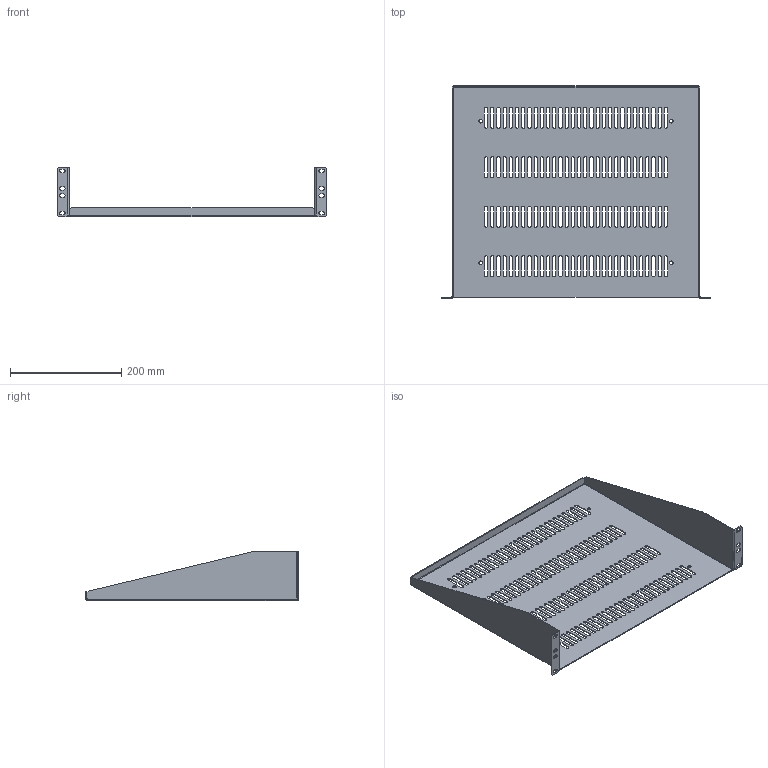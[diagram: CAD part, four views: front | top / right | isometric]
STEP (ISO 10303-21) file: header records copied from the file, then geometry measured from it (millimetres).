
FILE_DESCRIPTION( ( 'Unknown' ), '1' );
FILE_NAME( 'Q:/ACCESSORIES/SHELVES/RK _ RMA/WEB DRAWINGS/STEP/RASV190315.stp', 'Unknown', ( 'Unknown' ), ( 'Unknown' ), 'PSStep 10.1', 'Unknown', ' ' );
FILE_SCHEMA( ( 'AUTOMOTIVE_DESIGN { 1 0 10303 214 1 1 1 1 }' ) );
Length unit declared in the file: millimetre
Products named in the file (1): 1
Bounding box: 482.75 x 381 x 88.09 mm (x, y, z)
Volume: 354774.2 mm3; surface area: 410352.7 mm2
Topology: 1 solids, 1 shells, 580 faces, 1718 edges, 1140 vertices
Faces by surface type: plane 296, cylinder 280, bspline 4
Full cylindrical faces by diameter (mm): 6.35 x4
Entity records: 20245 total; most frequent: CARTESIAN_POINT 3723, ORIENTED_EDGE 3420, DIRECTION 3404, EDGE_CURVE 1710, AXIS2_PLACEMENT_3D 1137, VERTEX_POINT 1136, LINE 1130, VECTOR 1130
